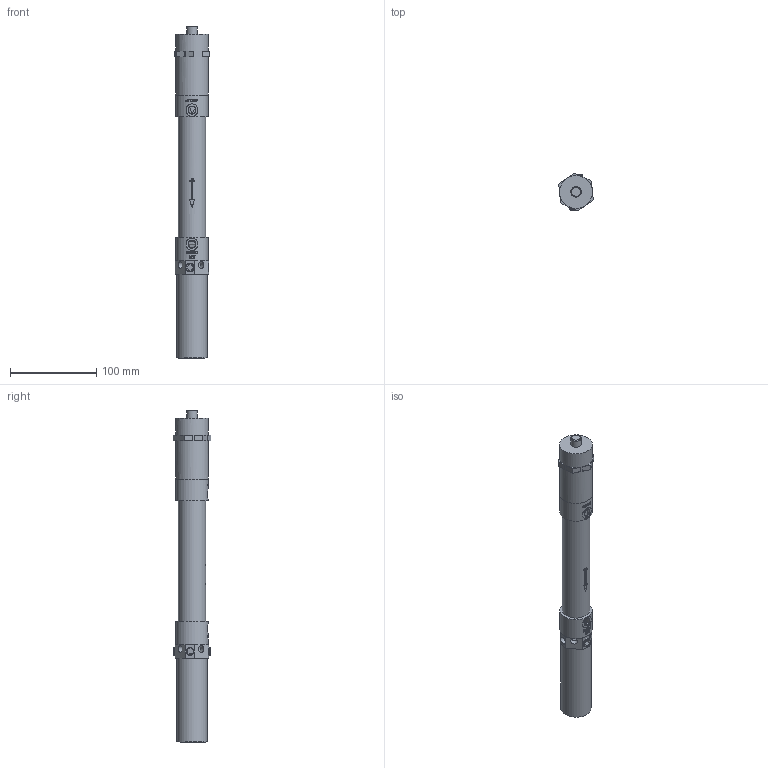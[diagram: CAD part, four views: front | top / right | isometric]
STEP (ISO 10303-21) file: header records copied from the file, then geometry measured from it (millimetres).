
FILE_DESCRIPTION(/* description */ ('ASSY,STANDARD (mm)'),/* implementation_level */ '2;1');
FILE_NAME(/* name */ 'ASSY,VFIA,50MM,CLAMP MOUNT,140MM,S3_622-89755_ALLPOS_20260323.stp',/* time_stamp */ '2026-03-23T14:04:21-04:00',/* author */ ('ASSY,VFIA,50MM,CLAMP MOUNT,140MM,S3'),/* organization */ (''),/* preprocessor_version */ 'ST-DEVELOPER v20',/* originating_system */ 'Autodesk Inventor 2024',/* authorisation */ '');
FILE_SCHEMA (('AUTOMOTIVE_DESIGN { 1 0 10303 214 3 1 1 }'));
Products named in the file (18): ASSY,VFIA,50MM,CLAMP MOUNT,140MM,S3_0004828595_TOP; ASSY,VFIA,50MM,CLAMP MOUNT,140MM,S3_0004828595; HOLDER,LVDT,CLAMP_MNT,140MM; FIT, BRASS, PIPE, PLUG 1_8_ _1NLV5; ASSY,ROD,PISTON,69MM,IA,140MM,CLMP_MNT; ROD,PISTON,IA,CLAMP_MOUNT,FOR_140MM_0003168663; O-RING, 020_1K91A; CORE,VF,IA,SENSING_69MM,78MM_LENGTH_0002711485; LOCK,PIN,IA_0002498416; REPLACE WITH - 0003600407_0001978302; VF87H-3-26_0004827994; VF87H-3-26_0004827996; VFAHSS-3-381; O-RING,AS568,DUROM 70,3_8 in ID X 1_8 in_0000750627; AS568-117; 100-03383; BALL, SS, 1.75 MM DIA_0002381368; ASSY,INSERT,IA,69MM_STROKE_0003379980
Assembly tree (19 placements, depth 4):
  ASSY,VFIA,50MM,CLAMP MOUNT,140MM,S3_0004828595_TOP
    ASSY,VFIA,50MM,CLAMP MOUNT,140MM,S3_0004828595
      HOLDER,LVDT,CLAMP_MNT,140MM
      FIT, BRASS, PIPE, PLUG 1_8_ _1NLV5  x2
      ASSY,ROD,PISTON,69MM,IA,140MM,CLMP_MNT
        ROD,PISTON,IA,CLAMP_MOUNT,FOR_140MM_0003168663
        O-RING, 020_1K91A
        CORE,VF,IA,SENSING_69MM,78MM_LENGTH_0002711485
        LOCK,PIN,IA_0002498416
        REPLACE WITH - 0003600407_0001978302
      VF87H-3-26_0004827994
        VF87H-3-26_0004827996
        VFAHSS-3-381
        O-RING,AS568,DUROM 70,3_8 in ID X 1_8 in_0000750627
        AS568-117
        100-03383  x2
        BALL, SS, 1.75 MM DIA_0002381368
      ASSY,INSERT,IA,69MM_STROKE_0003379980
Bounding box: 39.99 x 43.8 x 385.05 mm (x, y, z)
Volume: 267965.6 mm3; surface area: 114112.1 mm2
Topology: 17 solids, 17 shells, 437 faces, 1054 edges, 700 vertices
Faces by surface type: plane 217, bspline 93, cylinder 91, cone 28, torus 7, sphere 1
Full cylindrical faces by diameter (mm): 1.524 x1, 3.937 x1, 4 x2, 4.75 x3, 6 x1, 6.502 x2, 7.938 x4, 8.5 x1, 8.731 x4, 9.459 x1, 9.525 x1, 9.9 x1, 10.82 x2, 11.113 x2, 12 x1, 15.748 x1, 19.05 x2, 20.269 x1, 20.637 x1, 21.006 x1, 21.057 x1, 22.098 x1, 22.225 x1, 23.019 x1, 24.842 x2, 24.892 x1, 25.4 x1, 25.425 x1, 26.289 x1, 28.829 x3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
Entity records: 35073 total; most frequent: CARTESIAN_POINT 24563, ORIENTED_EDGE 2034, DIRECTION 1945, EDGE_CURVE 1017, AXIS2_PLACEMENT_3D 733, VERTEX_POINT 680, EDGE_LOOP 515, LINE 479
